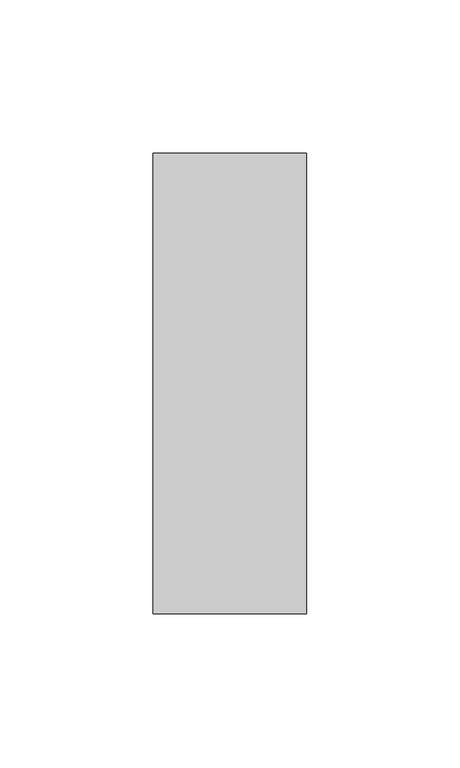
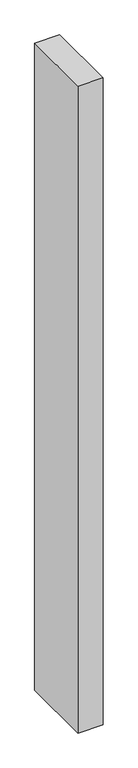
"""IFC4 building model written with IfcOpenShell, lengths in millimetres: member geometry, Прямоугольный импост : 50 x 150 мм."""

from ifc_helpers import new_model, si_unit, frame, origin, place, context, project, spatial, polyline, outline, extrude, source, transform, mapped, element, save


def member_3cc0036f(model_context):
    return source(origin(), model_context, "Body", "SweptSolid", [
        extrude(outline(polyline([(25.0, 75.0), (25.0, -75.0), (-25.0, -75.0), (-25.0, 75.0), (25.0, 75.0)])), frame((0.0, 0.0, -1366.1063853), z_axis=(0.0, 0.0, 1.0), x_axis=(1.0, 0.0, 0.0)), (0.0, 0.0, 1.0), 1366.1063853),
    ])


if __name__ == "__main__":
    model = new_model("IFC4")
    model_context = context("Model", 3, world=origin())
    ifc_project = project(units=[si_unit("LENGTHUNIT", "METRE", prefix="MILLI")], contexts=[model_context])
    site = spatial("IfcSite", under=ifc_project)
    building = spatial("IfcBuilding", under=site)
    placement = place(None, origin())
    member_shape = member_3cc0036f(model_context)
    element("IfcMember", 1, ObjectType="Прямоугольный импост : 50 x 150 мм", at=placement, inside=building, context=model_context, shape_type="MappedRepresentation", body=[
        mapped(member_shape, transform((0.0, 0.0, 0.0), x_axis=(1.0, 0.0, 0.0), y_axis=(0.0, 1.0, 0.0), z_axis=(0.0, 0.0, 1.0))),
    ])
    save(model, "model.ifc")
